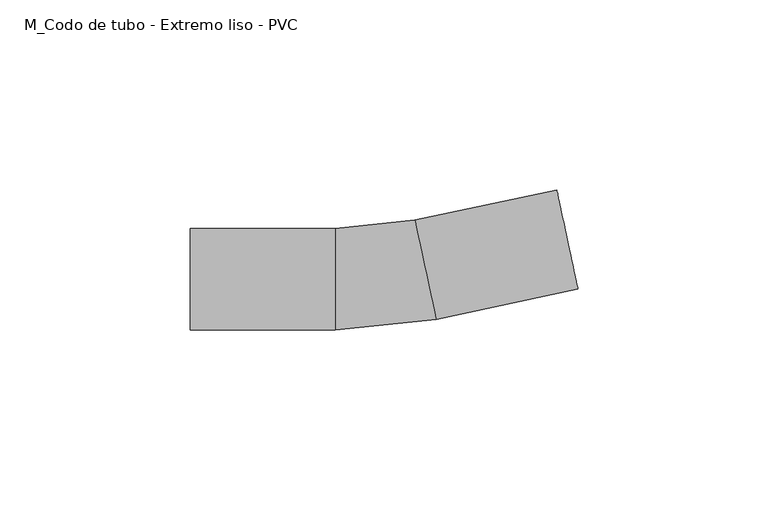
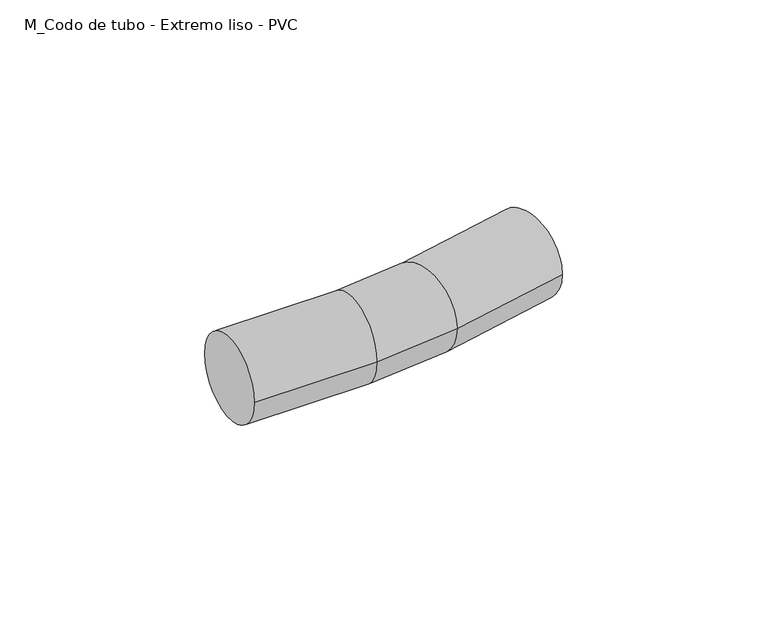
"""IFC4 building model written with IfcOpenShell, lengths in millimetres: cable carrier fitting geometry, M_Codo de tubo - Extremo liso - PVC : CODO ILUMINACION."""

from ifc_helpers import new_model, si_unit, point, frame, origin, place, context, project, spatial, circle_curve, ellipse_curve, trimmed, source, transform, mapped, element, save
from ifc_brep_helpers import plane_surface, cylinder_surface, revolved_surface, advanced_brep


def m_codo_de_tubo_extremo_liso_pvc_2c15a8ce(model_context):
    return source(origin(), model_context, "Body", "AdvancedBrep", [
        advanced_brep(
        [(-50.1134141, -13.335, 0.0), (-50.1134141, 13.335, 0.0), (-12.0134141, -13.335, 0.0), (-12.0134141, 13.335, 0.0), (8.9783898, 15.5413275, 0.0), (14.5233946, -10.545869, 0.0), (51.7908182, -2.6244336, 0.0), (46.2458134, 23.4627629, 0.0)],
        [
            (0, 1, circle_curve(frame((-50.1134141, 0.0, 0.0), z_axis=(-1.0, 0.0, 0.0), x_axis=(0.0, 1.0, 0.0)), 13.335)),
            (1, 0, circle_curve(frame((-50.1134141, 0.0, 0.0), z_axis=(-1.0, 0.0, 0.0), x_axis=(0.0, 1.0, 0.0)), 13.335)),
            (0, 2),
            (2, 3, circle_curve(frame((-12.0134141, 0.0, 0.0), z_axis=(-1.0, 0.0, 0.0), x_axis=(0.0, 1.0, 0.0)), 13.335)),
            (3, 1),
            (3, 2, circle_curve(frame((-12.0134141, 0.0, 0.0), z_axis=(-1.0, 0.0, 0.0), x_axis=(0.0, 1.0, 0.0)), 13.335)),
            (4, 3, circle_curve(frame((-12.0134141, 114.3, 0.0), z_axis=(0.0, 0.0, -1.0), x_axis=(0.0, -1.0, 0.0)), 100.965)),
            (2, 5, circle_curve(frame((-12.0134141, 114.3, 0.0), z_axis=(0.0, 0.0, 1.0), x_axis=(0.0, -1.0, 0.0)), 127.635)),
            (5, 4, circle_curve(frame((11.7508922, 2.4977292, 0.0), z_axis=(-0.9781476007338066, -0.20791169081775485, 0.0), x_axis=(-0.20791169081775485, 0.9781476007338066, 0.0)), 13.335)),
            (4, 5, circle_curve(frame((11.7508922, 2.4977292, 0.0), z_axis=(-0.9781476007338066, -0.20791169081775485, 0.0), x_axis=(-0.20791169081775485, 0.9781476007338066, 0.0)), 13.335)),
            (6, 7, circle_curve(frame((49.0183158, 10.4191647, 0.0), z_axis=(0.9781476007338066, 0.20791169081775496, 0.0), x_axis=(-0.20791169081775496, 0.9781476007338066, 0.0)), 13.335)),
            (7, 6, circle_curve(frame((49.0183158, 10.4191647, 0.0), z_axis=(0.9781476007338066, 0.20791169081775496, 0.0), x_axis=(-0.20791169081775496, 0.9781476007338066, 0.0)), 13.335)),
            (5, 6),
            (7, 4),
        ],
        [
            plane_surface(frame((-50.1134141, 0.0, 0.0), z_axis=(-1.0, 0.0, 0.0), x_axis=(0.0, 0.0, 1.0))),
            cylinder_surface(frame((-50.1134141, 0.0, 0.0), z_axis=(-1.0, 0.0, 0.0), x_axis=(0.0, 1.0, 0.0)), 13.335),
            revolved_surface(trimmed(ellipse_curve(frame((-12.0134141, 0.0, 0.0), z_axis=(-1.0, 0.0, 0.0), x_axis=(0.0, 1.0, 0.0)), 13.335, 13.335), [point((-12.0134141, -13.335, 0.0))], [point((-12.0134141, 13.335, 0.0))], True, "CARTESIAN"), (-12.0134141, 114.3, 0.0), (0.0, 0.0, 1.0)),
            revolved_surface(trimmed(ellipse_curve(frame((-12.0134141, 0.0, 0.0), z_axis=(-1.0, 0.0, 0.0), x_axis=(0.0, 1.0, 0.0)), 13.335, 13.335), [point((-12.0134141, 13.335, 0.0))], [point((-12.0134141, -13.335, 0.0))], True, "CARTESIAN"), (-12.0134141, 114.3, 0.0), (0.0, 0.0, 1.0)),
            plane_surface(frame((49.0183158, 10.4191647, 0.0), z_axis=(0.9781476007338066, 0.20791169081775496, 0.0), x_axis=(0.0, 0.0, 1.0))),
            cylinder_surface(frame((11.7508922, 2.4977292, 0.0), z_axis=(-0.9781476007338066, -0.20791169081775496, 0.0), x_axis=(-0.20791169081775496, 0.9781476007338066, 0.0)), 13.335),
        ],
        [
            (0, [[1, 2]]),
            (1, [[-1, 3, 4, 5]]),
            (1, [[-2, -5, 6, -3]]),
            (2, [[7, -4, 8, 9]]),
            (3, [[-8, -6, -7, 10]]),
            (4, [[11, 12]]),
            (5, [[-9, 13, -12, 14]]),
            (5, [[-10, -14, -11, -13]]),
        ],
    ),
    ])


if __name__ == "__main__":
    model = new_model("IFC4")
    model_context = context("Model", 3, world=origin())
    ifc_project = project(units=[si_unit("LENGTHUNIT", "METRE", prefix="MILLI")], contexts=[model_context])
    site = spatial("IfcSite", under=ifc_project)
    building = spatial("IfcBuilding", under=site)
    placement = place(None, origin())
    m_codo_de_tubo_extremo_liso_pvc_shape = m_codo_de_tubo_extremo_liso_pvc_2c15a8ce(model_context)
    element("IfcCableCarrierFitting", 1, ObjectType="M_Codo de tubo - Extremo liso - PVC : CODO ILUMINACION", at=placement, inside=building, context=model_context, shape_type="MappedRepresentation", body=[
        mapped(m_codo_de_tubo_extremo_liso_pvc_shape, transform((0.0, 0.0, 0.0), x_axis=(1.0, 0.0, 0.0), y_axis=(0.0, 1.0, 0.0), z_axis=(0.0, 0.0, 1.0))),
    ])
    save(model, "model.ifc")
